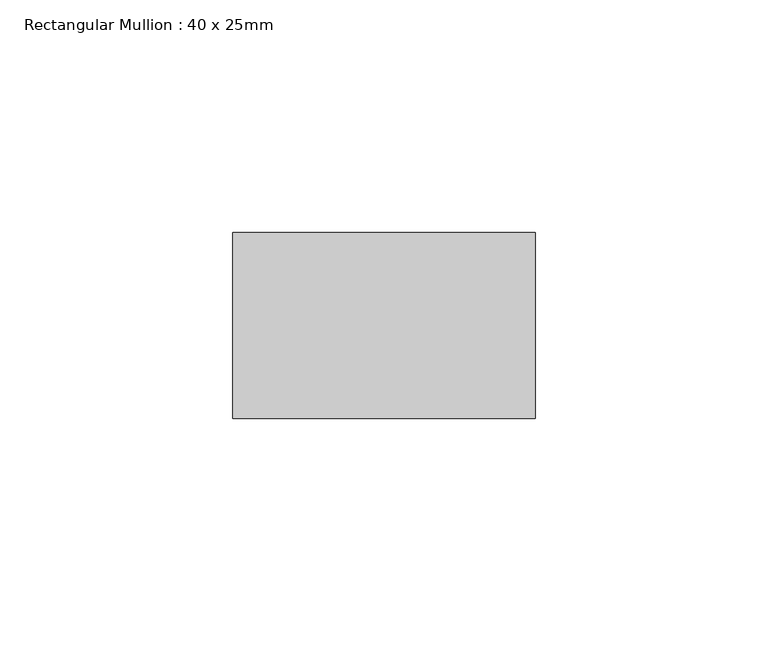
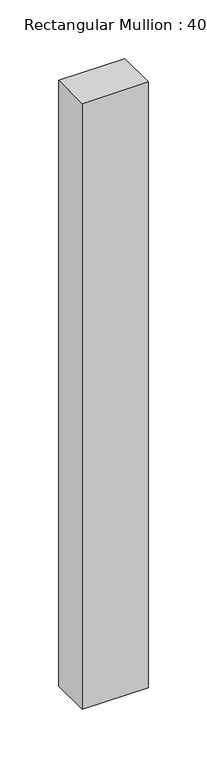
"""IFC4 building model written with IfcOpenShell, lengths in millimetres: member geometry, Rectangular Mullion : 40 x 25mm."""

from ifc_helpers import new_model, si_unit, frame, origin, place, context, project, spatial, polyline, outline, extrude, source, transform, mapped, element, save


def rectangular_mullion_40_x_25mm_c0cb6cb0(model_context):
    return source(origin(), model_context, "Body", "SweptSolid", [
        extrude(outline(polyline([(0.0, -20.0), (0.0, -60.0), (-65.0, -60.0), (-65.0, -20.0), (0.0, -20.0)])), frame((0.0, 0.0, -630.8), z_axis=(0.0, 0.0, 1.0), x_axis=(1.0, 0.0, 0.0)), (0.0, 0.0, 1.0), 630.8),
    ])


if __name__ == "__main__":
    model = new_model("IFC4")
    model_context = context("Model", 3, world=origin())
    ifc_project = project(units=[si_unit("LENGTHUNIT", "METRE", prefix="MILLI")], contexts=[model_context])
    site = spatial("IfcSite", under=ifc_project)
    building = spatial("IfcBuilding", under=site)
    placement = place(None, origin())
    rectangular_mullion_40_x_25mm_shape = rectangular_mullion_40_x_25mm_c0cb6cb0(model_context)
    element("IfcMember", 1, ObjectType="Rectangular Mullion : 40 x 25mm", at=placement, inside=building, context=model_context, shape_type="MappedRepresentation", body=[
        mapped(rectangular_mullion_40_x_25mm_shape, transform((0.0, 0.0, 0.0), x_axis=(1.0, 0.0, 0.0), y_axis=(0.0, 1.0, 0.0), z_axis=(0.0, 0.0, 1.0))),
    ])
    save(model, "model.ifc")
